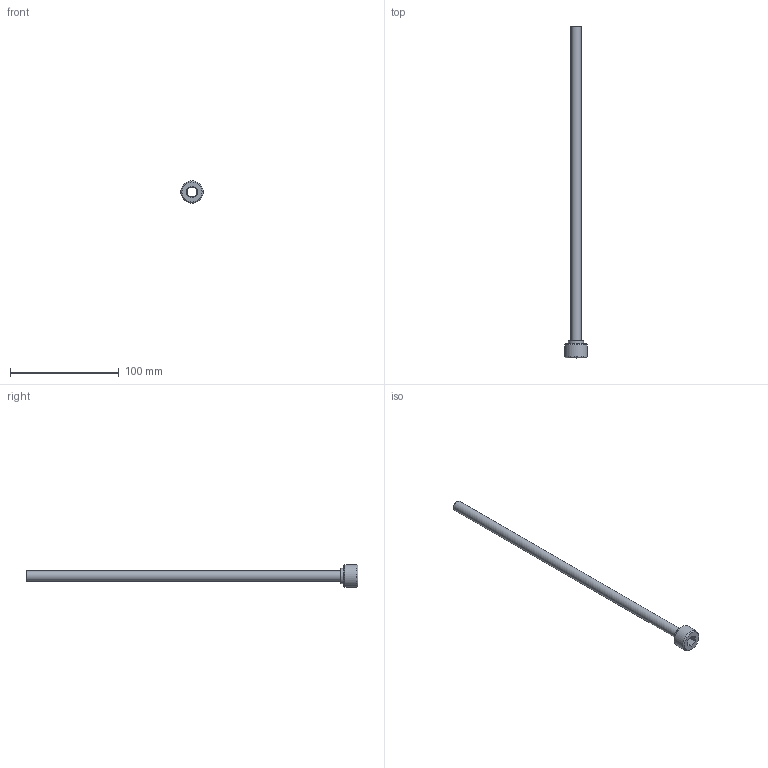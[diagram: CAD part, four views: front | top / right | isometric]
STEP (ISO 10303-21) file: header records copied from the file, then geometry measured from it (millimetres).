
FILE_DESCRIPTION(/* description */ (''),/* implementation_level */ '2;1');
FILE_NAME(/* name */ 'C:/Users/drich/Desktop/PT12-375-12 v1.step',/* time_stamp */ '2019-12-27T14:48:56-06:00',/* author */ (''),/* organization */ (''),/* preprocessor_version */ 'ST-DEVELOPER v18',/* originating_system */ 'Autodesk Translation Framework v8.12.0.6',/* authorisation */ '');
FILE_SCHEMA (('AUTOMOTIVE_DESIGN { 1 0 10303 214 3 1 1 }'));
Length unit declared in the file: inch
Products named in the file (1): PT12-375-12
Bounding box: 20.81 x 304.8 x 20.81 mm (x, y, z)
Volume: 6286.5 mm3; surface area: 18170.9 mm2
Topology: 1 solids, 1 shells, 19 faces, 48 edges, 34 vertices
Faces by surface type: plane 11, cylinder 4, torus 2, cone 2
Full cylindrical faces by diameter (mm): 8.636 x1, 9.271 x1, 13.868 x1, 20.813 x1
Entity records: 633 total; most frequent: DIRECTION 112, CARTESIAN_POINT 102, ORIENTED_EDGE 96, EDGE_CURVE 48, AXIS2_PLACEMENT_3D 44, VERTEX_POINT 34, CIRCLE 24, EDGE_LOOP 24
